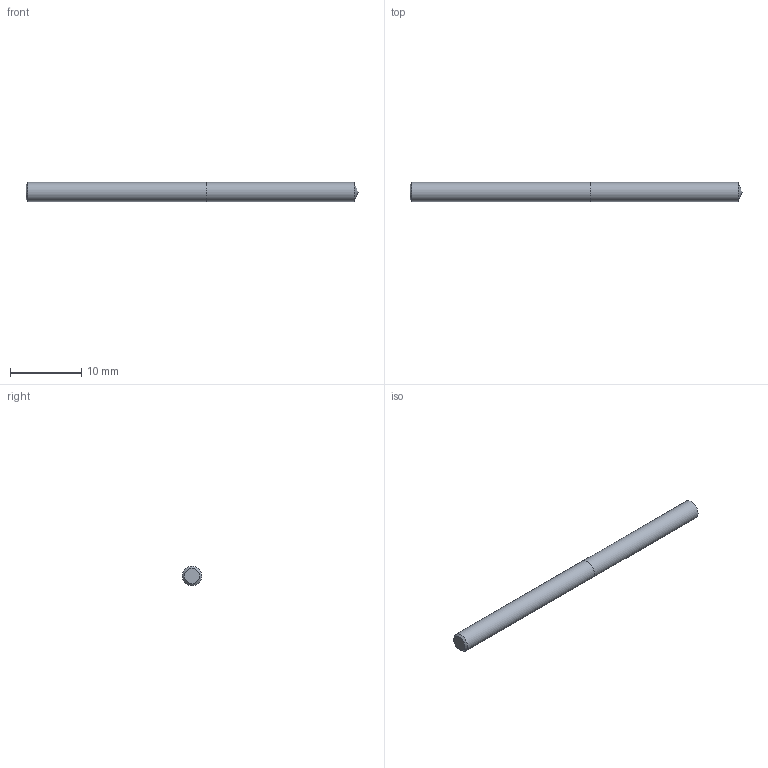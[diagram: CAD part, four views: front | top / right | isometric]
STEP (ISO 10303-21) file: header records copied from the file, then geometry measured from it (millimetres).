
FILE_DESCRIPTION (( 'STEP AP214' ), '1' );
FILE_NAME ('03-2378.STEP', '2022-06-03T06:57:49', ( 'USER' ), ( '' ), 'SwSTEP 2.0', 'SolidWorks 2018', '' );
FILE_SCHEMA (( 'AUTOMOTIVE_DESIGN' ));
Length unit declared in the file: inch
Products named in the file (1): 03-2378
Bounding box: 46.6 x 2.71 x 2.71 mm (x, y, z)
Volume: 265.4 mm3; surface area: 413.3 mm2
Topology: 2 solids, 2 shells, 7 faces, 11 edges, 7 vertices
Faces by surface type: plane 3, cylinder 2, cone 2
Full cylindrical faces by diameter (mm): 2.705 x2
Entity records: 214 total; most frequent: DIRECTION 26, CARTESIAN_POINT 18, AXIS2_PLACEMENT_3D 13, EDGE_LOOP 10, ORIENTED_EDGE 10, FACE_OUTER_BOUND 9, DIMENSIONAL_EXPONENTS 7, ADVANCED_FACE 7
